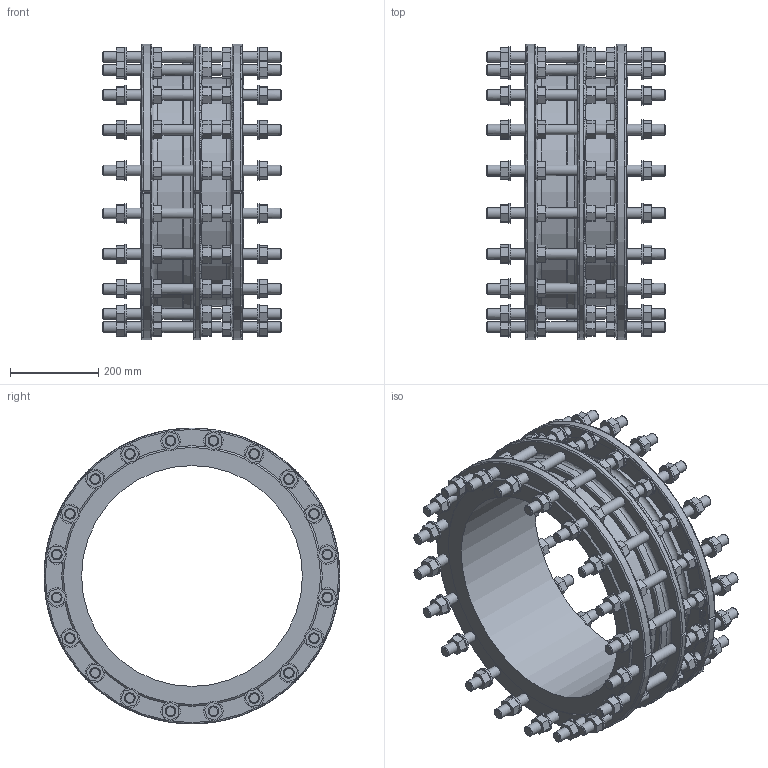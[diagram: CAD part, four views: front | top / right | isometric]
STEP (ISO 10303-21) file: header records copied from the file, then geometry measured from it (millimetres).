
FILE_DESCRIPTION (( 'STEP AP203' ), '1' );
FILE_NAME ('O_265_911_DN500_0XXXXX01_L=235_REV01.step', '2024-12-12T08:09:27', ( '' ), ( '' ), 'SwSTEP 2.0', 'SolidWorks 2022', '' );
FILE_SCHEMA (( 'CONFIG_CONTROL_DESIGN' ));
Length unit declared in the file: millimetre
Products named in the file (1): O_265_911_DN500_0XXXXX01_L=235_REV01
Bounding box: 405 x 669.97 x 670 mm (x, y, z)
Volume: 21092533.3 mm3; surface area: 2245166.8 mm2
Topology: 1 solids, 1 shells, 1250 faces, 3047 edges, 2009 vertices
Faces by surface type: plane 959, cylinder 232, cone 43, torus 16
Full cylindrical faces by diameter (mm): 24 x120, 44 x100, 500 x1, 518 x2, 554 x1
Entity records: 35112 total; most frequent: CARTESIAN_POINT 6980, DIRECTION 5713, ORIENTED_EDGE 5264, EDGE_CURVE 2632, LINE 1925, VECTOR 1925, AXIS2_PLACEMENT_3D 1894, VERTEX_POINT 1865
